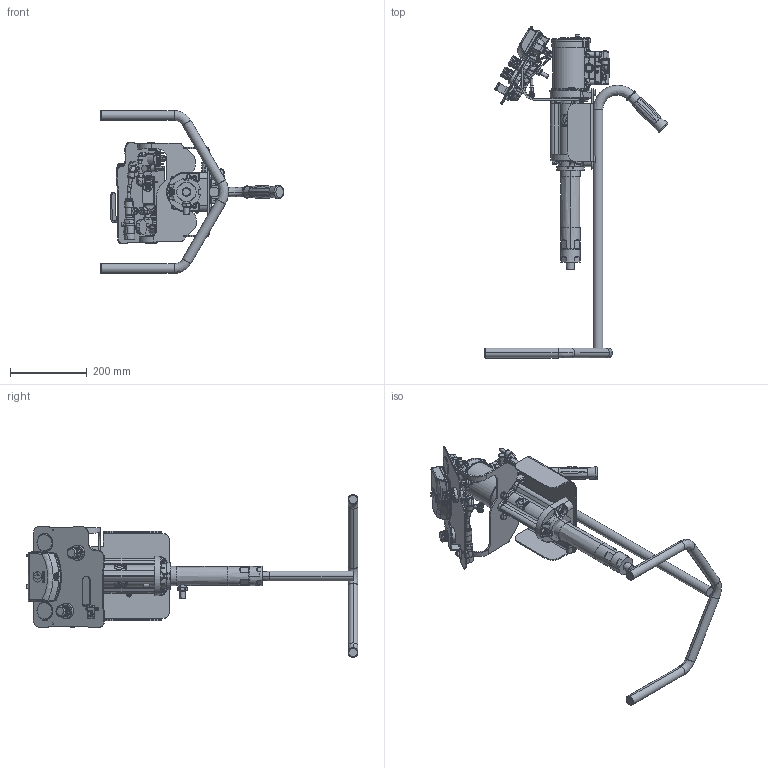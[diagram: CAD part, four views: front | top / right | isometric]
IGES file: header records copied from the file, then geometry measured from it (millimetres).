
Start section:  PTC IGES file: g15t01-en-l.igs
Global section: file name: g15t01-en-l.igs; native system: Creo Parametric by PTC Inc.; preprocessor: 2019030; author: qusrh3; organization: Unknown; date: 20200305.090511; units: inch
Bounding box: 479.36 x 866.05 x 425.4 mm (x, y, z)
Surface area: 920842.9 mm2 (no closed solid volume)
Topology: 0 solids, 0 shells, 3605 faces, 17578 edges, 17564 vertices
Faces by surface type: bspline 1805, revolution 1738, extrusion 62
